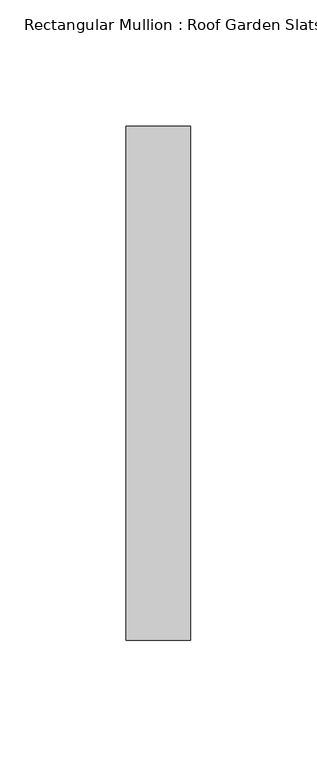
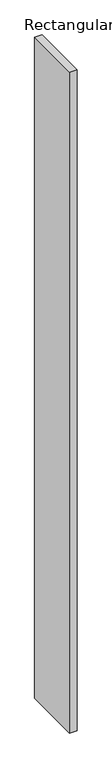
"""IFC4 building model written with IfcOpenShell, lengths in millimetres: member geometry, Rectangular Mullion : Roof Garden Slats."""

from ifc_helpers import new_model, si_unit, frame, origin, place, context, project, spatial, polyline, outline, extrude, source, transform, mapped, element, save


def rectangular_mullion_roof_garden_slats_29d1013c(model_context):
    return source(origin(), model_context, "Body", "SweptSolid", [
        extrude(outline(polyline([(12.7, 139.7), (12.7, -63.5), (-12.7, -63.5), (-12.7, 139.7), (12.7, 139.7)])), frame((0.0, 0.0, -2349.3064692), z_axis=(0.0, 0.0, 1.0), x_axis=(1.0, 0.0, 0.0)), (0.0, 0.0, 1.0), 2349.3064692),
    ])


if __name__ == "__main__":
    model = new_model("IFC4")
    model_context = context("Model", 3, world=origin())
    ifc_project = project(units=[si_unit("LENGTHUNIT", "METRE", prefix="MILLI")], contexts=[model_context])
    site = spatial("IfcSite", under=ifc_project)
    building = spatial("IfcBuilding", under=site)
    placement = place(None, origin())
    rectangular_mullion_roof_garden_slats_shape = rectangular_mullion_roof_garden_slats_29d1013c(model_context)
    element("IfcMember", 1, ObjectType="Rectangular Mullion : Roof Garden Slats", at=placement, inside=building, context=model_context, shape_type="MappedRepresentation", body=[
        mapped(rectangular_mullion_roof_garden_slats_shape, transform((0.0, 0.0, 0.0), x_axis=(1.0, 0.0, 0.0), y_axis=(0.0, 1.0, 0.0), z_axis=(0.0, 0.0, 1.0))),
    ])
    save(model, "model.ifc")
